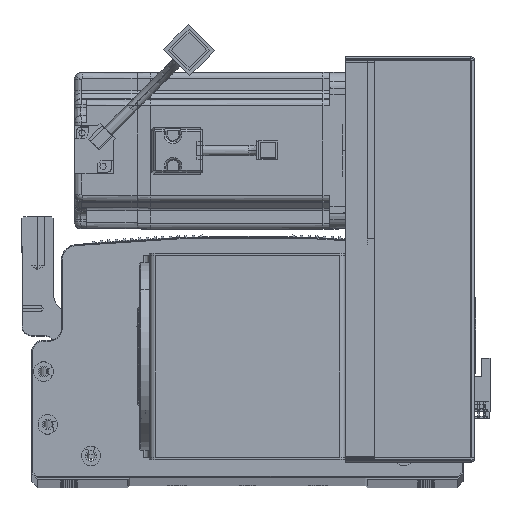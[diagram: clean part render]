
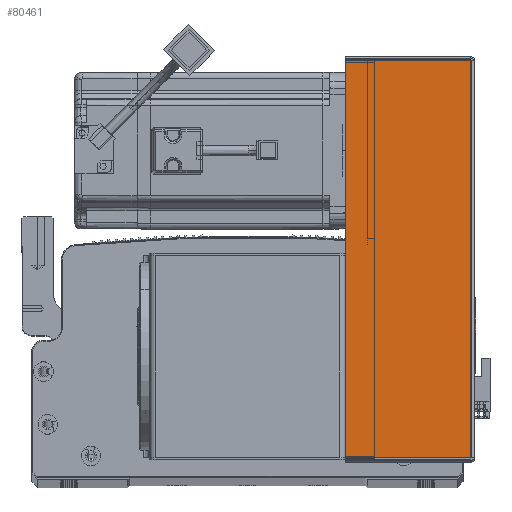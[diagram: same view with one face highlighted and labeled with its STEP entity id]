
A CAD part, top view. The second image highlights one B-rep face of the part: STEP entity #80461.
In plain terms, the highlighted planar face has unit normal (0, 0, 1) as drawn and (0, -1, 0) by its records, which use the part's own axes.
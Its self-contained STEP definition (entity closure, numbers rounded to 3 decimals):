
#3500 = DIRECTION ( 'NONE',  ( -1., 0., 0. ) ) ;
#4455 = PLANE ( 'NONE',  #91064 ) ;
#4931 = DIRECTION ( 'NONE',  ( 0., 0., 1. ) ) ;
#7946 = VECTOR ( 'NONE', #4931, 1000. ) ;
#10436 = VECTOR ( 'NONE', #79097, 1000. ) ;
#10694 = VERTEX_POINT ( 'NONE', #15456 ) ;
#14057 = ORIENTED_EDGE ( 'NONE', *, *, #80108, .T. ) ;
#14249 = LINE ( 'NONE', #24502, #73856 ) ;
#15456 = CARTESIAN_POINT ( 'NONE',  ( 64.5, -1.5, -203.293 ) ) ;
#17454 = DIRECTION ( 'NONE',  ( 1., 0., 0. ) ) ;
#18104 = EDGE_CURVE ( 'NONE', #75403, #49270, #72524, .T. ) ;
#24502 = CARTESIAN_POINT ( 'NONE',  ( 0., -1.5, -203.293 ) ) ;
#25429 = CARTESIAN_POINT ( 'NONE',  ( 64.5, -1.5, -0.707 ) ) ;
#30248 = ORIENTED_EDGE ( 'NONE', *, *, #90928, .T. ) ;
#32453 = CARTESIAN_POINT ( 'NONE',  ( 0., -1.5, -0.707 ) ) ;
#33688 = VERTEX_POINT ( 'NONE', #56071 ) ;
#45419 = EDGE_CURVE ( 'NONE', #33688, #75403, #75541, .T. ) ;
#47344 = VECTOR ( 'NONE', #61884, 1000. ) ;
#47673 = ORIENTED_EDGE ( 'NONE', *, *, #45419, .F. ) ;
#49270 = VERTEX_POINT ( 'NONE', #25429 ) ;
#55653 = DIRECTION ( 'NONE',  ( 0., 1., 0. ) ) ;
#56071 = CARTESIAN_POINT ( 'NONE',  ( 0.737, -1.5, -203.293 ) ) ;
#56137 = CARTESIAN_POINT ( 'NONE',  ( 0.737, -1.5, 0. ) ) ;
#61097 = FACE_OUTER_BOUND ( 'NONE', #70542, .T. ) ;
#61884 = DIRECTION ( 'NONE',  ( 1., 0., 0. ) ) ;
#62056 = CARTESIAN_POINT ( 'NONE',  ( 0., -1.5, 0. ) ) ;
#67779 = LINE ( 'NONE', #86176, #10436 ) ;
#70542 = EDGE_LOOP ( 'NONE', ( #47673, #30248, #14057, #79875 ) ) ;
#72524 = LINE ( 'NONE', #32453, #47344 ) ;
#73856 = VECTOR ( 'NONE', #17454, 1000. ) ;
#74801 = CARTESIAN_POINT ( 'NONE',  ( 0.737, -1.5, -0.707 ) ) ;
#75403 = VERTEX_POINT ( 'NONE', #74801 ) ;
#75541 = LINE ( 'NONE', #56137, #7946 ) ;
#79097 = DIRECTION ( 'NONE',  ( 0., 0., 1. ) ) ;
#79875 = ORIENTED_EDGE ( 'NONE', *, *, #18104, .F. ) ;
#80108 = EDGE_CURVE ( 'NONE', #10694, #49270, #67779, .T. ) ;
#80461 = ADVANCED_FACE ( 'NONE', ( #61097 ), #4455, .F. ) ;
#86176 = CARTESIAN_POINT ( 'NONE',  ( 64.5, -1.5, 0. ) ) ;
#90928 = EDGE_CURVE ( 'NONE', #33688, #10694, #14249, .T. ) ;
#91064 = AXIS2_PLACEMENT_3D ( 'NONE', #62056, #55653, #3500 ) ;
